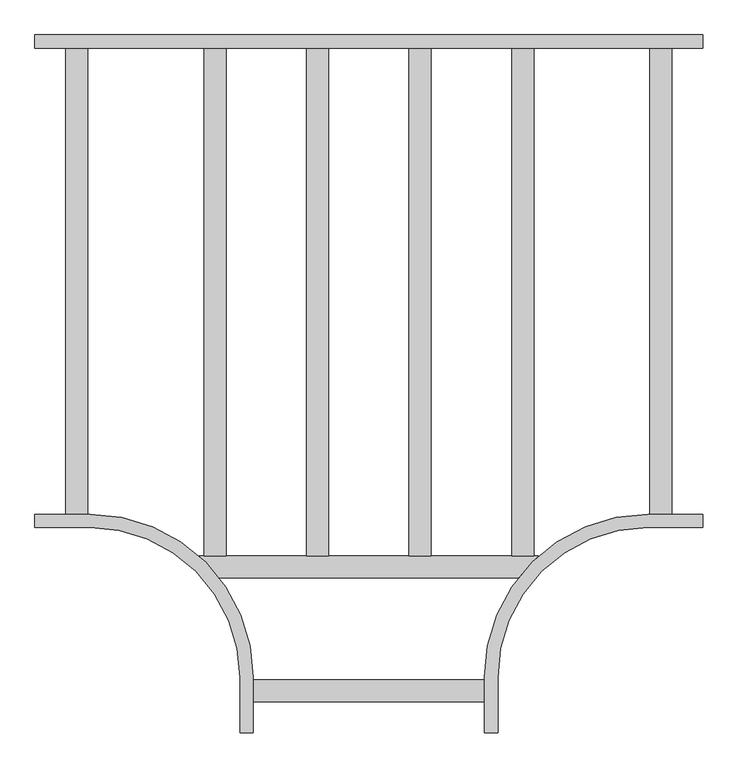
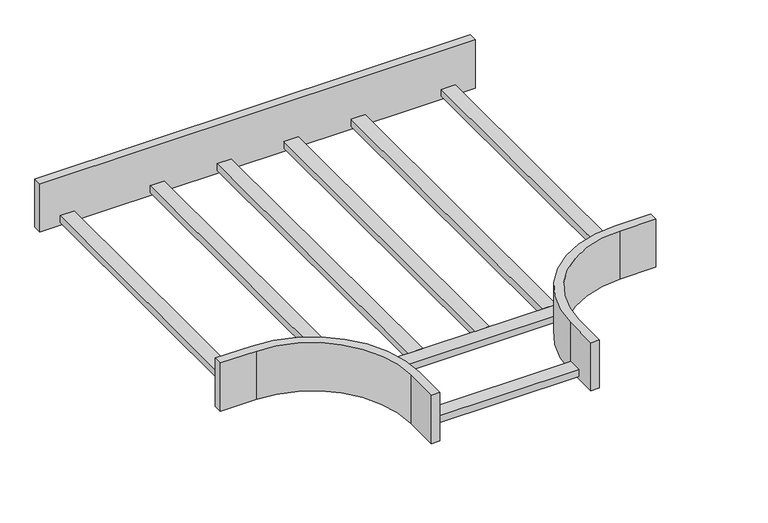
"""IFC4 building model written with IfcOpenShell, lengths in millimetres: cable carrier fitting geometry, Legrand_CableLadder_Swifts_Emerald_Tee-300R-13 : Hot Dip Galvanised (after manufacture)."""

import ifcopenshell
import ifcopenshell.guid

model = None  # the IFC model being written
_history = None  # IfcOwnerHistory: only IFC2X3 demands one
_inside = {}  # id of a spatial element -> (the spatial element, [elements in it])
_under = {}  # id of a project, library or spatial element -> (it, [spatial elements below it])
_declared = {}  # id of a project -> (the project, [libraries it declares])
_typed = {}  # id of a type object -> (the type object, [elements of that type])
_made_of = {}  # id of a material, layer set ... -> (it, [elements and type objects made of it])


def new_model(schema):
    """Start an empty IFC model of exactly this schema.

    Asked for "IFC4X3", IfcOpenShell would pick the latest addendum, in which some entities
    have other attributes; the version numbers below select the first issue.
    IFC2X3 requires an IfcOwnerHistory on every rooted entity: one is made here for all.
    """
    global model, _history
    if schema == "IFC4X3":
        model = ifcopenshell.file(schema_version=(4, 3, 0, 0))
    else:
        model = ifcopenshell.file(schema=schema)
    _inside.clear()
    _under.clear()
    _declared.clear()
    _typed.clear()
    _made_of.clear()
    _history = None
    if model.schema == "IFC2X3":
        org = make("IfcOrganization", Name="unknown")
        user = make(
            "IfcPersonAndOrganization",
            ThePerson=make("IfcPerson", FamilyName="unknown"),
            TheOrganization=org,
        )
        app = make(
            "IfcApplication",
            ApplicationDeveloper=org,
            Version="unknown",
            ApplicationFullName="unknown",
            ApplicationIdentifier="unknown",
        )
        _history = make(
            "IfcOwnerHistory",
            OwningUser=user,
            OwningApplication=app,
            ChangeAction="ADDED",
            CreationDate=0,
        )
    return model


def make(cls, **values):
    """One entity of the class cls with the attributes given. An attribute that is None is left unset."""
    return model.create_entity(
        cls, **{name: value for name, value in values.items() if value is not None}
    )


def rooted(cls, **values):
    """An entity with a GlobalId (a new one), such as an element, a storey or a relation."""
    return make(cls, GlobalId=ifcopenshell.guid.new(), OwnerHistory=_history, **values)


def si_unit(unit_type, name, prefix=None):
    """IfcSIUnit, for example si_unit("LENGTHUNIT", "METRE", prefix="MILLI")."""
    return make("IfcSIUnit", UnitType=unit_type, Prefix=prefix, Name=name)


def assignment(units):
    """IfcUnitAssignment: the units of a project."""
    return None if units is None else make("IfcUnitAssignment", Units=units)


def point(xyz):
    """IfcCartesianPoint."""
    return None if xyz is None else make("IfcCartesianPoint", Coordinates=xyz)


def direction(xyz):
    """IfcDirection."""
    return None if xyz is None else make("IfcDirection", DirectionRatios=xyz)


def frame(location, z_axis=None, x_axis=None):
    """IfcAxis2Placement3D, a coordinate frame: its origin and axes. An axis left out is left unset."""
    return make(
        "IfcAxis2Placement3D",
        Location=point(location),
        Axis=direction(z_axis),
        RefDirection=direction(x_axis),
    )


def frame_2d(location, x_axis=None):
    """IfcAxis2Placement2D, a coordinate frame in the plane: its origin and x axis."""
    return make(
        "IfcAxis2Placement2D", Location=point(location), RefDirection=direction(x_axis)
    )


def origin():
    """The frame at (0, 0, 0) with its axes left unset."""
    return frame((0.0, 0.0, 0.0))


def place(relative_to, where):
    """IfcLocalPlacement: puts the frame where relative to a parent placement (None: the world)."""
    return make(
        "IfcLocalPlacement", PlacementRelTo=relative_to, RelativePlacement=where
    )


def context(
    kind, dimensions, precision=None, world=None, true_north=None, identifier=None
):
    """IfcGeometricRepresentationContext, for example the 3D "Model" context."""
    return make(
        "IfcGeometricRepresentationContext",
        ContextIdentifier=identifier,
        ContextType=kind,
        CoordinateSpaceDimension=dimensions,
        Precision=precision,
        WorldCoordinateSystem=world,
        TrueNorth=true_north,
    )


def project(units=None, contexts=None):
    """IfcProject with its units and contexts."""
    return rooted(
        "IfcProject",
        Name="project",
        RepresentationContexts=contexts,
        UnitsInContext=assignment(units),
    )


def spatial(cls, under=None, at=None, **own):
    """A site, building, storey or space (cls), placed at a placement, below another one or the project."""
    s = rooted(cls, ObjectPlacement=at, **own)
    if under is not None:
        _under.setdefault(under.id(), (under, []))[1].append(s)
    return s


def polyline(points):
    """IfcPolyline through the points."""
    return make("IfcPolyline", Points=[point(p) for p in points])


def circle_curve(where, radius):
    """IfcCircle in the frame where."""
    return make("IfcCircle", Position=where, Radius=radius)


def trimmed(basis, trim1, trim2, sense, master):
    """IfcTrimmedCurve: the piece of a basis curve between two trims."""
    return make(
        "IfcTrimmedCurve",
        BasisCurve=basis,
        Trim1=trim1,
        Trim2=trim2,
        SenseAgreement=sense,
        MasterRepresentation=master,
    )


def segment(curve, same_sense, transition):
    """IfcCompositeCurveSegment."""
    return make(
        "IfcCompositeCurveSegment",
        Transition=transition,
        SameSense=same_sense,
        ParentCurve=curve,
    )


def composite_curve(segments, self_intersect=None):
    """IfcCompositeCurve: segments joined end to end."""
    return make("IfcCompositeCurve", Segments=segments, SelfIntersect=self_intersect)


def outline(outer, holes=None, kind="AREA"):
    """IfcArbitraryClosedProfileDef: a profile drawn as a closed curve; with holes, ...WithVoids."""
    if holes is None:
        return make("IfcArbitraryClosedProfileDef", ProfileType=kind, OuterCurve=outer)
    return make(
        "IfcArbitraryProfileDefWithVoids",
        ProfileType=kind,
        OuterCurve=outer,
        InnerCurves=holes,
    )


def extrude(swept, where, along, depth):
    """IfcExtrudedAreaSolid: the profile swept, set in the frame where, extruded along a direction by depth."""
    return make(
        "IfcExtrudedAreaSolid",
        SweptArea=swept,
        Position=where,
        ExtrudedDirection=direction(along),
        Depth=depth,
    )


def shape(context_of_items, identifier, shape_type, items):
    """IfcShapeRepresentation: the items that make up one representation, for example the "Body"."""
    return make(
        "IfcShapeRepresentation",
        ContextOfItems=context_of_items,
        RepresentationIdentifier=identifier,
        RepresentationType=shape_type,
        Items=items,
    )


def source(mapping_origin, context_of_items, identifier, shape_type, items):
    """IfcRepresentationMap: a shape defined once, which mapped items show again and again."""
    return make(
        "IfcRepresentationMap",
        MappingOrigin=mapping_origin,
        MappedRepresentation=shape(context_of_items, identifier, shape_type, items),
    )


def transform(
    local_origin,
    x_axis=None,
    y_axis=None,
    z_axis=None,
    scale=None,
    scale2=None,
    scale3=None,
    uniform=True,
):
    """IfcCartesianTransformationOperator3D, or its non-uniform kind. x_axis, y_axis, z_axis: its Axis1, 2, 3."""
    if uniform:
        return make(
            "IfcCartesianTransformationOperator3D",
            Axis1=direction(x_axis),
            Axis2=direction(y_axis),
            LocalOrigin=point(local_origin),
            Scale=scale,
            Axis3=direction(z_axis),
        )
    return make(
        "IfcCartesianTransformationOperator3DnonUniform",
        Axis1=direction(x_axis),
        Axis2=direction(y_axis),
        LocalOrigin=point(local_origin),
        Scale=scale,
        Axis3=direction(z_axis),
        Scale2=scale2,
        Scale3=scale3,
    )


def mapped(mapping_source, mapping_target):
    """IfcMappedItem: shows the shape of a source again, moved by a transform."""
    return make(
        "IfcMappedItem", MappingSource=mapping_source, MappingTarget=mapping_target
    )


def made_of(thing, what):
    """Note that an element or type object is made of a material, layer set ...; save() writes the relation."""
    if what is not None:
        _made_of.setdefault(what.id(), (what, []))[1].append(thing)
    return thing


def element(
    cls,
    number,
    at=None,
    inside=None,
    cuts=None,
    type_object=None,
    material=None,
    context=None,
    identifier="Body",
    shape_type=None,
    held_by="IfcProductDefinitionShape",
    body=None,
    shapes=None,
    **own,
):
    """One element of the class cls, such as IfcWall. Its Tag is "e" and its number.

    at: its placement. inside: the storey or other place that contains it. cuts: it is an
    opening in that element (IfcRelVoidsElement). A single representation is given by context,
    identifier, shape_type and body (its items); several are given by shapes. held_by: the class
    of the entity that holds the representations. save() writes the other relations.
    """
    e = rooted(cls, Tag="e%d" % number, ObjectPlacement=at, **own)
    if body is not None:
        shapes = [shape(context, identifier, shape_type, body)]
    if shapes is not None:
        e.Representation = make(held_by, Representations=shapes)
    if inside is not None:
        _inside.setdefault(inside.id(), (inside, []))[1].append(e)
    if cuts is not None:
        rooted(
            "IfcRelVoidsElement", RelatingBuildingElement=cuts, RelatedOpeningElement=e
        )
    if type_object is not None:
        _typed.setdefault(type_object.id(), (type_object, []))[1].append(e)
    return made_of(e, material)


def aggregate(whole, parts):
    """IfcRelAggregates: a whole, such as a stair, and the parts it consists of."""
    return rooted("IfcRelAggregates", RelatingObject=whole, RelatedObjects=parts)


def save(model, path):
    """Write the relations noted so far, then the file.

    IfcRelAggregates (storeys below a building ...), IfcRelContainedInSpatialStructure (elements
    in a storey), IfcRelDefinesByType, IfcRelAssociatesMaterial and IfcRelDeclares: one each for
    every whole, place, type object, material and project.
    """
    for whole, parts in _under.values():
        aggregate(whole, parts)
    for where, things in _inside.values():
        rooted(
            "IfcRelContainedInSpatialStructure",
            RelatedElements=things,
            RelatingStructure=where,
        )
    for kind, things in _typed.values():
        rooted("IfcRelDefinesByType", RelatedObjects=things, RelatingType=kind)
    for what, things in _made_of.values():
        rooted("IfcRelAssociatesMaterial", RelatedObjects=things, RelatingMaterial=what)
    for by, libraries in _declared.values():
        rooted("IfcRelDeclares", RelatingContext=by, RelatedDefinitions=libraries)
    model.write(path)


def cable_carrier_fitting_dfb7f23c(model_context):
    return source(origin(), model_context, "Body", "SweptSolid", [
        extrude(outline(polyline([(-273.875, 446.5), (-273.875, -526.5), (-315.875, -526.5), (-315.875, 446.5), (-273.875, 446.5)])), frame((0.0, 0.0, -65.0), z_axis=(0.0, 0.0, 1.0), x_axis=(1.0, 0.0, 0.0)), (0.0, 0.0, 1.0), 21.0),
        extrude(outline(polyline([(273.875, 446.5), (315.875, 446.5), (315.875, -526.5), (273.875, -526.5), (273.875, 446.5)])), frame((0.0, 0.0, -65.0), z_axis=(0.0, 0.0, 1.0), x_axis=(1.0, 0.0, 0.0)), (0.0, 0.0, 1.0), 21.0),
        extrude(outline(polyline([(-119.2916667, -526.5), (-119.2916667, 446.5), (-77.2916667, 446.5), (-77.2916667, -526.5), (-119.2916667, -526.5)])), frame((0.0, 0.0, -65.0), z_axis=(0.0, 0.0, 1.0), x_axis=(1.0, 0.0, 0.0)), (0.0, 0.0, 1.0), 21.0),
        extrude(outline(polyline([(77.2916667, -526.5), (77.2916667, 446.5), (119.2916667, 446.5), (119.2916667, -526.5), (77.2916667, -526.5)])), frame((0.0, 0.0, -65.0), z_axis=(0.0, 0.0, 1.0), x_axis=(1.0, 0.0, 0.0)), (0.0, 0.0, 1.0), 21.0),
        extrude(outline(polyline([(221.5, -763.75), (221.5, -805.75), (-221.5, -805.75), (-221.5, -763.75), (221.5, -763.75)])), frame((0.0, 0.0, -65.0), z_axis=(0.0, 0.0, 1.0), x_axis=(1.0, 0.0, 0.0)), (0.0, 0.0, 1.0), 21.0),
        extrude(outline(polyline([(-580.75, -446.5), (-580.75, 446.5), (-538.75, 446.5), (-538.75, -446.5), (-580.75, -446.5)])), frame((0.0, 0.0, -65.0), z_axis=(0.0, 0.0, 1.0), x_axis=(1.0, 0.0, 0.0)), (0.0, 0.0, 1.0), 21.0),
        extrude(outline(polyline([(580.75, -446.5), (538.75, -446.5), (538.75, 446.5), (580.75, 446.5), (580.75, -446.5)])), frame((0.0, 0.0, -65.0), z_axis=(0.0, 0.0, 1.0), x_axis=(1.0, 0.0, 0.0)), (0.0, 0.0, 1.0), 21.0),
        extrude(outline(composite_curve([segment(polyline([(286.4052906, -568.5), (-286.4052906, -568.5)]), True, "CONTINUOUS"), segment(trimmed(circle_curve(frame_2d((-534.25, -759.25)), 312.75), [point((-286.4052906, -568.5))], [point((-325.3481092, -526.5))], True, "CARTESIAN"), True, "CONTINUOUS"), segment(polyline([(-325.3481092, -526.5), (325.3481092, -526.5)]), True, "CONTINUOUS"), segment(trimmed(circle_curve(frame_2d((534.25, -759.25)), 312.75), [point((325.3481092, -526.5))], [point((286.4052906, -568.5))], True, "CARTESIAN"), True, "CONTINUOUS")], self_intersect=False)), frame((0.0, 0.0, -65.0), z_axis=(0.0, 0.0, 1.0), x_axis=(1.0, 0.0, 0.0)), (0.0, 0.0, 1.0), 21.0),
        extrude(outline(composite_curve([segment(polyline([(639.75, -446.5), (639.75, -472.0), (534.25, -472.0)]), True, "CONTINUOUS"), segment(trimmed(circle_curve(frame_2d((534.25, -759.25)), 287.25), [point((534.25, -472.0))], [point((247.0, -759.25))], True, "CARTESIAN"), True, "CONTINUOUS"), segment(polyline([(247.0, -759.25), (247.0, -864.75), (221.5, -864.75), (221.5, -759.25)]), True, "CONTINUOUS"), segment(trimmed(circle_curve(frame_2d((534.25, -759.25)), 312.75), [point((221.5, -759.25))], [point((534.25, -446.5))], False, "CARTESIAN"), True, "CONTINUOUS"), segment(polyline([(534.25, -446.5), (639.75, -446.5)]), True, "CONTINUOUS")], self_intersect=False)), frame((0.0, 0.0, -75.0), z_axis=(0.0, 0.0, 1.0), x_axis=(1.0, 0.0, 0.0)), (0.0, 0.0, 1.0), 150.0),
        extrude(outline(composite_curve([segment(polyline([(-639.75, -472.0), (-639.75, -446.5), (-534.25, -446.5)]), True, "CONTINUOUS"), segment(trimmed(circle_curve(frame_2d((-534.25, -759.25)), 312.75), [point((-534.25, -446.5))], [point((-221.5, -759.25))], False, "CARTESIAN"), True, "CONTINUOUS"), segment(polyline([(-221.5, -759.25), (-221.5, -864.75), (-247.0, -864.75), (-247.0, -759.25)]), True, "CONTINUOUS"), segment(trimmed(circle_curve(frame_2d((-534.25, -759.25)), 287.25), [point((-247.0, -759.25))], [point((-534.25, -472.0))], True, "CARTESIAN"), True, "CONTINUOUS"), segment(polyline([(-534.25, -472.0), (-639.75, -472.0)]), True, "CONTINUOUS")], self_intersect=False)), frame((0.0, 0.0, -75.0), z_axis=(0.0, 0.0, 1.0), x_axis=(1.0, 0.0, 0.0)), (0.0, 0.0, 1.0), 150.0),
        extrude(outline(polyline([(-639.75, 446.5), (-639.75, 472.0), (639.75, 472.0), (639.75, 446.5), (-639.75, 446.5)])), frame((0.0, 0.0, -75.0), z_axis=(0.0, 0.0, 1.0), x_axis=(1.0, 0.0, 0.0)), (0.0, 0.0, 1.0), 150.0),
    ])


if __name__ == "__main__":
    model = new_model("IFC4")
    model_context = context("Model", 3, world=origin())
    ifc_project = project(units=[si_unit("LENGTHUNIT", "METRE", prefix="MILLI")], contexts=[model_context])
    site = spatial("IfcSite", under=ifc_project)
    building = spatial("IfcBuilding", under=site)
    placement = place(None, origin())
    cable_carrier_fitting_shape = cable_carrier_fitting_dfb7f23c(model_context)
    element("IfcCableCarrierFitting", 1, ObjectType="Legrand_CableLadder_Swifts_Emerald_Tee-300R-13 : Hot Dip Galvanised (after manufacture)", at=placement, inside=building, context=model_context, shape_type="MappedRepresentation", body=[
        mapped(cable_carrier_fitting_shape, transform((0.0, 0.0, 0.0), x_axis=(1.0, 0.0, 0.0), y_axis=(0.0, 1.0, 0.0), z_axis=(0.0, 0.0, 1.0))),
    ])
    save(model, "model.ifc")
